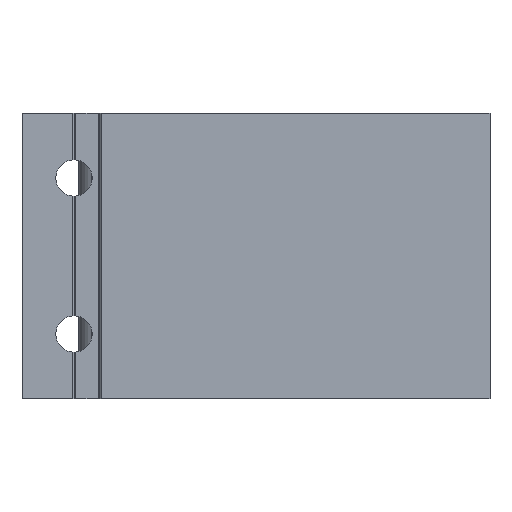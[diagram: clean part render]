
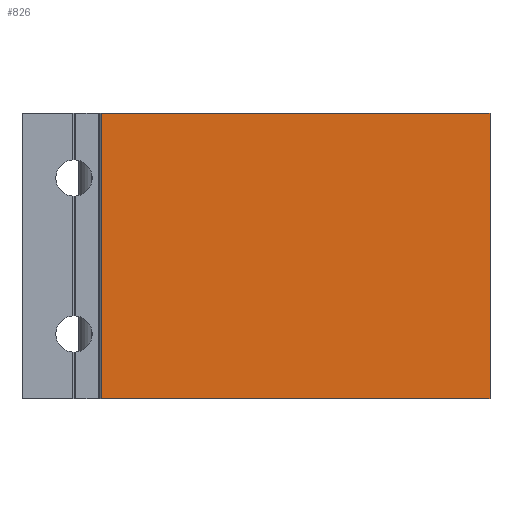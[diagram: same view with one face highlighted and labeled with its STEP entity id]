
A CAD part, front view. The second image highlights one B-rep face of the part: STEP entity #826.
In plain terms, the highlighted planar face has unit normal (0, -1, 0).
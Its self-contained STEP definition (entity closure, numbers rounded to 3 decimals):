
#239 = CARTESIAN_POINT ( 'NONE',  ( -74.7, 0., 27.5 ) ) ;
#350 = CARTESIAN_POINT ( 'NONE',  ( -74.7, 0., -27.5 ) ) ;
#352 = CARTESIAN_POINT ( 'NONE',  ( 0., 0., -27.5 ) ) ;
#414 = CARTESIAN_POINT ( 'NONE',  ( 0., 0., 27.5 ) ) ;
#516 = DIRECTION ( 'NONE',  ( 0., 0., 1. ) ) ;
#517 = DIRECTION ( 'NONE',  ( 0., 1., 0. ) ) ;
#519 = PLANE ( 'NONE',  #1363 ) ;
#526 = CARTESIAN_POINT ( 'NONE',  ( 0., 0., 27.5 ) ) ;
#640 = CARTESIAN_POINT ( 'NONE',  ( 0., 0., 27.5 ) ) ;
#670 = DIRECTION ( 'NONE',  ( 0., 0., -1. ) ) ;
#687 = CARTESIAN_POINT ( 'NONE',  ( 0., 0., 27.5 ) ) ;
#702 = DIRECTION ( 'NONE',  ( 1., 0., 0. ) ) ;
#826 = ADVANCED_FACE ( 'NONE', ( #1998 ), #519, .F. ) ;
#870 = CARTESIAN_POINT ( 'NONE',  ( -74.7, 0., 27.5 ) ) ;
#873 = CARTESIAN_POINT ( 'NONE',  ( 0., 0., -27.5 ) ) ;
#874 = DIRECTION ( 'NONE',  ( 0., 0., -1. ) ) ;
#877 = DIRECTION ( 'NONE',  ( 1., 0., 0. ) ) ;
#906 = VERTEX_POINT ( 'NONE', #414 ) ;
#1024 = VERTEX_POINT ( 'NONE', #350 ) ;
#1025 = VERTEX_POINT ( 'NONE', #352 ) ;
#1073 = EDGE_LOOP ( 'NONE', ( #2068, #2232, #2175, #2226 ) ) ;
#1092 = VERTEX_POINT ( 'NONE', #239 ) ;
#1107 = EDGE_CURVE ( 'NONE', #1092, #1024, #1960, .T. ) ;
#1108 = EDGE_CURVE ( 'NONE', #1024, #1025, #1959, .T. ) ;
#1126 = EDGE_CURVE ( 'NONE', #906, #1025, #1866, .T. ) ;
#1232 = EDGE_CURVE ( 'NONE', #1092, #906, #1605, .T. ) ;
#1363 = AXIS2_PLACEMENT_3D ( 'NONE', #526, #517, #516 ) ;
#1542 = VECTOR ( 'NONE', #877, 1000. ) ;
#1603 = VECTOR ( 'NONE', #874, 1000. ) ;
#1605 = LINE ( 'NONE', #687, #1637 ) ;
#1637 = VECTOR ( 'NONE', #702, 1000. ) ;
#1863 = VECTOR ( 'NONE', #670, 1000. ) ;
#1866 = LINE ( 'NONE', #640, #1863 ) ;
#1959 = LINE ( 'NONE', #873, #1542 ) ;
#1960 = LINE ( 'NONE', #870, #1603 ) ;
#1998 = FACE_OUTER_BOUND ( 'NONE', #1073, .T. ) ;
#2068 = ORIENTED_EDGE ( 'NONE', *, *, #1108, .T. ) ;
#2175 = ORIENTED_EDGE ( 'NONE', *, *, #1232, .F. ) ;
#2226 = ORIENTED_EDGE ( 'NONE', *, *, #1107, .T. ) ;
#2232 = ORIENTED_EDGE ( 'NONE', *, *, #1126, .F. ) ;
